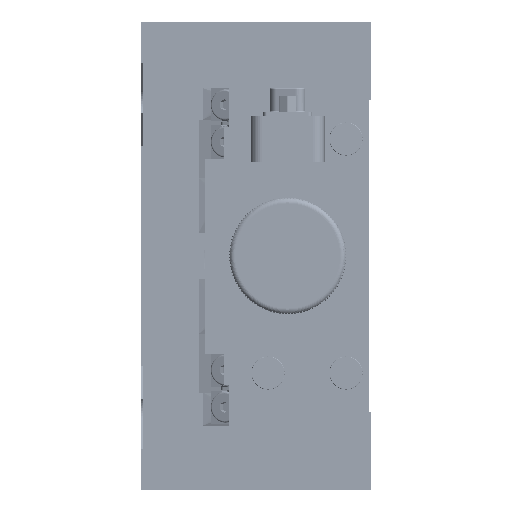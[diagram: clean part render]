
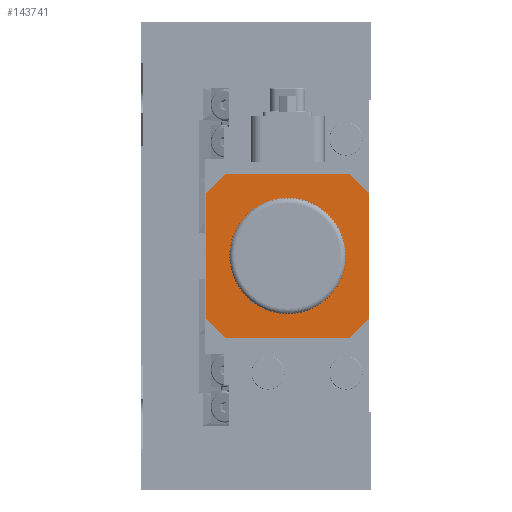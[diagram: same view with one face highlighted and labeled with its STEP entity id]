
A CAD part, left-side view. The second image highlights one B-rep face of the part: STEP entity #143741.
In plain terms, the highlighted planar face has unit normal (-1, 0, 0) as drawn and (0, 0, 1) by its records, which use the part's own axes.
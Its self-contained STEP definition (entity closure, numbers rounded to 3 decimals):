
#562 = VECTOR ( 'NONE', #124514, 1000. ) ;
#749 = CARTESIAN_POINT ( 'NONE',  ( 21., 16., 40. ) ) ;
#4014 = DIRECTION ( 'NONE',  ( 1., 0., 0. ) ) ;
#4735 = DIRECTION ( 'NONE',  ( 0., 0., 1. ) ) ;
#4823 = VECTOR ( 'NONE', #74800, 1000. ) ;
#6589 = CARTESIAN_POINT ( 'NONE',  ( -16., 21., 40. ) ) ;
#7124 = AXIS2_PLACEMENT_3D ( 'NONE', #113847, #24341, #66971 ) ;
#8623 = ORIENTED_EDGE ( 'NONE', *, *, #62655, .F. ) ;
#8685 = VERTEX_POINT ( 'NONE', #101592 ) ;
#13596 = VERTEX_POINT ( 'NONE', #137502 ) ;
#15505 = ORIENTED_EDGE ( 'NONE', *, *, #138005, .T. ) ;
#16114 = ORIENTED_EDGE ( 'NONE', *, *, #91957, .F. ) ;
#18392 = VERTEX_POINT ( 'NONE', #100563 ) ;
#20322 = VECTOR ( 'NONE', #80372, 1000. ) ;
#21056 = VERTEX_POINT ( 'NONE', #749 ) ;
#21128 = VERTEX_POINT ( 'NONE', #51192 ) ;
#22349 = DIRECTION ( 'NONE',  ( 1., 0., 0. ) ) ;
#24341 = DIRECTION ( 'NONE',  ( 0., 0., 1. ) ) ;
#26288 = ORIENTED_EDGE ( 'NONE', *, *, #37492, .T. ) ;
#29725 = VECTOR ( 'NONE', #86114, 1000. ) ;
#30016 = LINE ( 'NONE', #6589, #4823 ) ;
#30657 = VERTEX_POINT ( 'NONE', #91483 ) ;
#30849 = LINE ( 'NONE', #143732, #118690 ) ;
#37492 = EDGE_CURVE ( 'NONE', #18392, #8685, #30849, .T. ) ;
#39242 = LINE ( 'NONE', #48065, #134624 ) ;
#40627 = DIRECTION ( 'NONE',  ( -1., 0., 0. ) ) ;
#48065 = CARTESIAN_POINT ( 'NONE',  ( -21., 16., 40. ) ) ;
#48550 = DIRECTION ( 'NONE',  ( 1., 0., 0. ) ) ;
#51192 = CARTESIAN_POINT ( 'NONE',  ( 1.491, 2.007, 40. ) ) ;
#52126 = DIRECTION ( 'NONE',  ( 0.707, 0.707, 0. ) ) ;
#53103 = CARTESIAN_POINT ( 'NONE',  ( 16., 21., 40. ) ) ;
#55362 = LINE ( 'NONE', #122821, #100624 ) ;
#58143 = FACE_OUTER_BOUND ( 'NONE', #74464, .T. ) ;
#62053 = ORIENTED_EDGE ( 'NONE', *, *, #136770, .F. ) ;
#62390 = ORIENTED_EDGE ( 'NONE', *, *, #85519, .T. ) ;
#62655 = EDGE_CURVE ( 'NONE', #80704, #137519, #69495, .T. ) ;
#64014 = ORIENTED_EDGE ( 'NONE', *, *, #77511, .T. ) ;
#66971 = DIRECTION ( 'NONE',  ( 1., 0., 0. ) ) ;
#67224 = CARTESIAN_POINT ( 'NONE',  ( -1.491, 2.007, 40. ) ) ;
#68408 = ORIENTED_EDGE ( 'NONE', *, *, #135436, .T. ) ;
#69495 = CIRCLE ( 'NONE', #92940, 2.5 ) ;
#69550 = LINE ( 'NONE', #137667, #562 ) ;
#74374 = EDGE_CURVE ( 'NONE', #13596, #121109, #83971, .T. ) ;
#74464 = EDGE_LOOP ( 'NONE', ( #102536, #26288, #64014, #85933, #114157, #15505, #62390, #129677 ) ) ;
#74800 = DIRECTION ( 'NONE',  ( -0.707, -0.707, 0. ) ) ;
#77511 = EDGE_CURVE ( 'NONE', #8685, #21056, #79163, .T. ) ;
#79163 = LINE ( 'NONE', #91582, #119897 ) ;
#80357 = AXIS2_PLACEMENT_3D ( 'NONE', #137440, #4735, #4014 ) ;
#80372 = DIRECTION ( 'NONE',  ( 0.707, -0.707, 0. ) ) ;
#80515 = EDGE_CURVE ( 'NONE', #125800, #18392, #69550, .T. ) ;
#80704 = VERTEX_POINT ( 'NONE', #67224 ) ;
#81878 = DIRECTION ( 'NONE',  ( 0., -1., 0. ) ) ;
#83971 = LINE ( 'NONE', #53103, #121796 ) ;
#85331 = CARTESIAN_POINT ( 'NONE',  ( -21., 16., 40. ) ) ;
#85519 = EDGE_CURVE ( 'NONE', #124500, #132936, #39242, .T. ) ;
#85933 = ORIENTED_EDGE ( 'NONE', *, *, #121924, .T. ) ;
#86114 = DIRECTION ( 'NONE',  ( -0.707, 0.707, 0. ) ) ;
#87353 = CIRCLE ( 'NONE', #80357, 2.5 ) ;
#90344 = CARTESIAN_POINT ( 'NONE',  ( -21., -16., 40. ) ) ;
#91483 = CARTESIAN_POINT ( 'NONE',  ( 2.5, 0., 40. ) ) ;
#91582 = CARTESIAN_POINT ( 'NONE',  ( 21., -16., 40. ) ) ;
#91957 = EDGE_CURVE ( 'NONE', #30657, #21128, #87353, .T. ) ;
#92940 = AXIS2_PLACEMENT_3D ( 'NONE', #128139, #106864, #126704 ) ;
#100563 = CARTESIAN_POINT ( 'NONE',  ( 16., -21., 40. ) ) ;
#100624 = VECTOR ( 'NONE', #22349, 1000. ) ;
#100830 = CIRCLE ( 'NONE', #7124, 2.5 ) ;
#101592 = CARTESIAN_POINT ( 'NONE',  ( 21., -16., 40. ) ) ;
#102536 = ORIENTED_EDGE ( 'NONE', *, *, #80515, .T. ) ;
#104307 = DIRECTION ( 'NONE',  ( 0., 0., 1. ) ) ;
#105036 = FACE_BOUND ( 'NONE', #142925, .T. ) ;
#105751 = CARTESIAN_POINT ( 'NONE',  ( 0., 0., 40. ) ) ;
#106864 = DIRECTION ( 'NONE',  ( 0., 0., 1. ) ) ;
#108403 = AXIS2_PLACEMENT_3D ( 'NONE', #105751, #104307, #48550 ) ;
#108826 = LINE ( 'NONE', #121278, #29725 ) ;
#113847 = CARTESIAN_POINT ( 'NONE',  ( 0., 0., 40. ) ) ;
#114157 = ORIENTED_EDGE ( 'NONE', *, *, #74374, .T. ) ;
#114302 = DIRECTION ( 'NONE',  ( 0., 1., 0. ) ) ;
#114612 = PLANE ( 'NONE',  #108403 ) ;
#118690 = VECTOR ( 'NONE', #52126, 1000. ) ;
#119498 = EDGE_CURVE ( 'NONE', #132936, #125800, #136063, .T. ) ;
#119897 = VECTOR ( 'NONE', #114302, 1000. ) ;
#121109 = VERTEX_POINT ( 'NONE', #135383 ) ;
#121278 = CARTESIAN_POINT ( 'NONE',  ( 21., 16., 40. ) ) ;
#121652 = CARTESIAN_POINT ( 'NONE',  ( -21., -16., 40. ) ) ;
#121796 = VECTOR ( 'NONE', #40627, 1000. ) ;
#121924 = EDGE_CURVE ( 'NONE', #21056, #13596, #108826, .T. ) ;
#122821 = CARTESIAN_POINT ( 'NONE',  ( -2.892, 2.007, 40. ) ) ;
#124500 = VERTEX_POINT ( 'NONE', #85331 ) ;
#124514 = DIRECTION ( 'NONE',  ( 1., 0., 0. ) ) ;
#125800 = VERTEX_POINT ( 'NONE', #134388 ) ;
#126704 = DIRECTION ( 'NONE',  ( 1., 0., 0. ) ) ;
#128139 = CARTESIAN_POINT ( 'NONE',  ( 0., 0., 40. ) ) ;
#128487 = CARTESIAN_POINT ( 'NONE',  ( -2.5, 0., 40. ) ) ;
#129677 = ORIENTED_EDGE ( 'NONE', *, *, #119498, .T. ) ;
#132936 = VERTEX_POINT ( 'NONE', #90344 ) ;
#134388 = CARTESIAN_POINT ( 'NONE',  ( -16., -21., 40. ) ) ;
#134624 = VECTOR ( 'NONE', #81878, 1000. ) ;
#135383 = CARTESIAN_POINT ( 'NONE',  ( -16., 21., 40. ) ) ;
#135436 = EDGE_CURVE ( 'NONE', #80704, #21128, #55362, .T. ) ;
#136063 = LINE ( 'NONE', #121652, #20322 ) ;
#136770 = EDGE_CURVE ( 'NONE', #137519, #30657, #100830, .T. ) ;
#137440 = CARTESIAN_POINT ( 'NONE',  ( 0., 0., 40. ) ) ;
#137502 = CARTESIAN_POINT ( 'NONE',  ( 16., 21., 40. ) ) ;
#137519 = VERTEX_POINT ( 'NONE', #128487 ) ;
#137667 = CARTESIAN_POINT ( 'NONE',  ( -16., -21., 40. ) ) ;
#138005 = EDGE_CURVE ( 'NONE', #121109, #124500, #30016, .T. ) ;
#142925 = EDGE_LOOP ( 'NONE', ( #8623, #68408, #16114, #62053 ) ) ;
#143732 = CARTESIAN_POINT ( 'NONE',  ( 16., -21., 40. ) ) ;
#143741 = ADVANCED_FACE ( 'NONE', ( #105036, #58143 ), #114612, .T. ) ;
